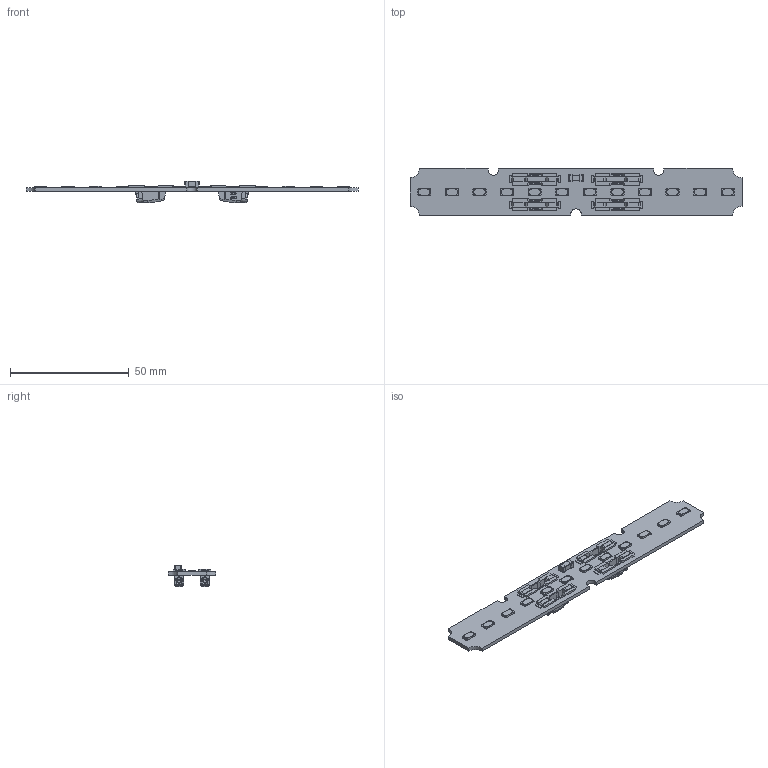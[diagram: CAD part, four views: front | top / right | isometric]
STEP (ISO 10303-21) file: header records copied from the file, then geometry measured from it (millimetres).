
FILE_DESCRIPTION(/* description */ (''),/* implementation_level */ '2;1');
FILE_NAME(/* name */ 'C:\Work\Dominik - Fortimo Strip Gen5 LGIT EXIT\tpd\sh-112\emn\550lm_LV\Fortimo LED Strip 0.5ft 550lm BC LV4 2017-05-25.stp',/* time_stamp */ '2017-05-25T09:35:10+02:00',/* author */ ('300228303'),/* organization */ (''),/* preprocessor_version */ 'ST-DEVELOPER v15.2',/* originating_system */ 'Autodesk Inventor 2014',/* authorisation */ '');
FILE_SCHEMA (('AUTOMOTIVE_DESIGN { 1 0 10303 214 3 1 1 }'));
Products named in the file (1): 550lm_LV
Bounding box: 140 x 20 x 9.12 mm (x, y, z)
Volume: 4815.8 mm3; surface area: 8659.8 mm2
Topology: 1 solids, 1 shells, 1848 faces, 5284 edges, 3500 vertices
Faces by surface type: plane 1461, cylinder 267, cone 56, bspline 56, sphere 8
Full cylindrical faces by diameter (mm): 0.6 x8
Entity records: 66227 total; most frequent: CARTESIAN_POINT 15873, ORIENTED_EDGE 10536, DIRECTION 9300, EDGE_CURVE 5268, LINE 4478, VECTOR 4478, VERTEX_POINT 3500, AXIS2_PLACEMENT_3D 2411
